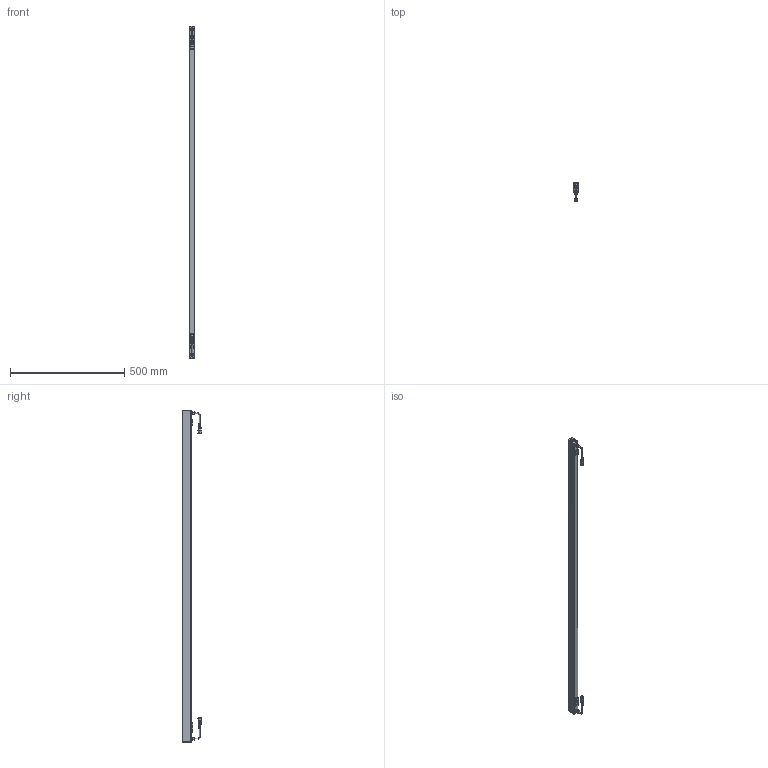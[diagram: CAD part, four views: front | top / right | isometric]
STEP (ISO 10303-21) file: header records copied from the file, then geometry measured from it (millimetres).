
FILE_DESCRIPTION(/* description */ ('Unknown'),/* implementation_level */ '2;1');
FILE_NAME(/* name */ 'PASEO L 57.2',/* time_stamp */ '2023-02-07T16:29:48+01:00',/* author */ ('Unknown'),/* organization */ ('Unknown'),/* preprocessor_version */ 'ST-DEVELOPER v18.1',/* originating_system */ 'Solid Edge',/* authorisation */ 'Unknown');
FILE_SCHEMA (('AUTOMOTIVE_DESIGN {1 0 10303 214 3 1 1}'));
Products named in the file (1): E97675_Semplifica
Bounding box: 23.98 x 83.47 x 1450.25 mm (x, y, z)
Volume: 477833 mm3; surface area: 412512 mm2
Topology: 2 solids, 2 shells, 1489 faces, 3639 edges, 2243 vertices
Faces by surface type: plane 682, cylinder 515, bspline 138, cone 75, torus 63, sphere 16
Full cylindrical faces by diameter (mm): 0.499 x8, 0.5 x6, 0.699 x8, 0.7 x7, 2.997 x4, 3.497 x4, 3.996 x2, 4.262 x2, 4.586 x2, 5.694 x4, 6.194 x2, 6.993 x1, 7.093 x2, 7.264 x2, 7.892 x2, 7.93 x2, 8.077 x2, 8.465 x1, 8.628 x1, 8.665 x3, 8.812 x3, 9.065 x1, 9.302 x1, 9.99 x4, 10.19 x4, 10.579 x2, 10.989 x2, 11.139 x2, 11.534 x1, 11.782 x2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
Entity records: 56542 total; most frequent: CARTESIAN_POINT 13118, DIRECTION 7113, ORIENTED_EDGE 6844, EDGE_CURVE 3422, AXIS2_PLACEMENT_3D 2708, VERTEX_POINT 2197, EDGE_LOOP 1773, FACE_BOUND 1773
